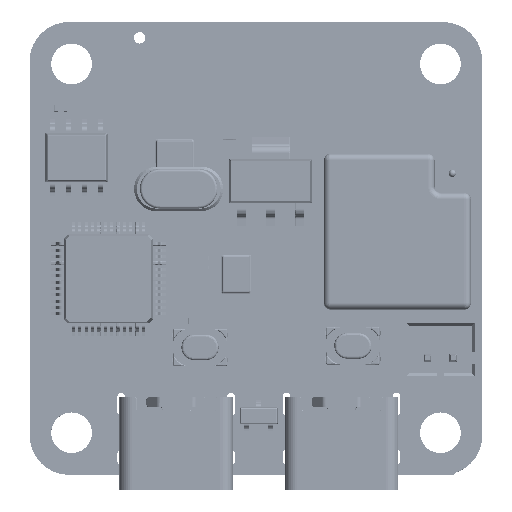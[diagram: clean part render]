
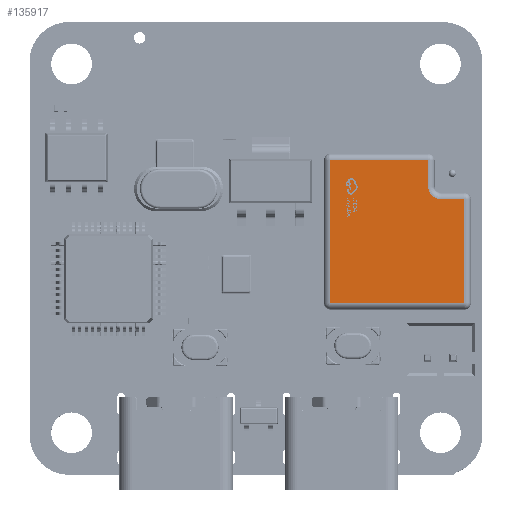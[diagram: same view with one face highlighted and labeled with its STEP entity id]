
A CAD part, top view. The second image highlights one B-rep face of the part: STEP entity #135917.
In plain terms, the highlighted planar face has unit normal (0, 0, 1).
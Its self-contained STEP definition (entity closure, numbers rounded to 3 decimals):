
#135917 = ADVANCED_FACE('',(#135918),#135977,.T.);
#135918 = FACE_BOUND('',#135919,.T.);
#135919 = EDGE_LOOP('',(#135920,#135930,#135938,#135946,#135955,#135963,
    #135971));
#135920 = ORIENTED_EDGE('',*,*,#135921,.T.);
#135921 = EDGE_CURVE('',#135922,#135924,#135926,.T.);
#135922 = VERTEX_POINT('',#135923);
#135923 = CARTESIAN_POINT('',(5.625,-5.275,2.4));
#135924 = VERTEX_POINT('',#135925);
#135925 = CARTESIAN_POINT('',(5.625,5.275,2.4));
#135926 = LINE('',#135927,#135928);
#135927 = CARTESIAN_POINT('',(5.625,5.775,2.4));
#135928 = VECTOR('',#135929,1.);
#135929 = DIRECTION('',(0.,1.,-0.));
#135930 = ORIENTED_EDGE('',*,*,#135931,.T.);
#135931 = EDGE_CURVE('',#135924,#135932,#135934,.T.);
#135932 = VERTEX_POINT('',#135933);
#135933 = CARTESIAN_POINT('',(-2.555,5.275,2.4));
#135934 = LINE('',#135935,#135936);
#135935 = CARTESIAN_POINT('',(-3.055,5.275,2.4));
#135936 = VECTOR('',#135937,1.);
#135937 = DIRECTION('',(-1.,0.,0.));
#135938 = ORIENTED_EDGE('',*,*,#135939,.T.);
#135939 = EDGE_CURVE('',#135932,#135940,#135942,.T.);
#135940 = VERTEX_POINT('',#135941);
#135941 = CARTESIAN_POINT('',(-2.555,3.425,2.4));
#135942 = LINE('',#135943,#135944);
#135943 = CARTESIAN_POINT('',(-2.555,2.925,2.4));
#135944 = VECTOR('',#135945,1.);
#135945 = DIRECTION('',(0.,-1.,0.));
#135946 = ORIENTED_EDGE('',*,*,#135947,.F.);
#135947 = EDGE_CURVE('',#135948,#135940,#135950,.T.);
#135948 = VERTEX_POINT('',#135949);
#135949 = CARTESIAN_POINT('',(-3.555,2.425,2.4));
#135950 = CIRCLE('',#135951,1.);
#135951 = AXIS2_PLACEMENT_3D('',#135952,#135953,#135954);
#135952 = CARTESIAN_POINT('',(-3.555,3.425,2.4));
#135953 = DIRECTION('',(-0.,0.,1.));
#135954 = DIRECTION('',(1.,0.,0.));
#135955 = ORIENTED_EDGE('',*,*,#135956,.T.);
#135956 = EDGE_CURVE('',#135948,#135957,#135959,.T.);
#135957 = VERTEX_POINT('',#135958);
#135958 = CARTESIAN_POINT('',(-5.625,2.425,2.4));
#135959 = LINE('',#135960,#135961);
#135960 = CARTESIAN_POINT('',(-6.125,2.425,2.4));
#135961 = VECTOR('',#135962,1.);
#135962 = DIRECTION('',(-1.,0.,-0.));
#135963 = ORIENTED_EDGE('',*,*,#135964,.T.);
#135964 = EDGE_CURVE('',#135957,#135965,#135967,.T.);
#135965 = VERTEX_POINT('',#135966);
#135966 = CARTESIAN_POINT('',(-5.625,-5.275,2.4));
#135967 = LINE('',#135968,#135969);
#135968 = CARTESIAN_POINT('',(-5.625,-5.775,2.4));
#135969 = VECTOR('',#135970,1.);
#135970 = DIRECTION('',(0.,-1.,0.));
#135971 = ORIENTED_EDGE('',*,*,#135972,.T.);
#135972 = EDGE_CURVE('',#135965,#135922,#135973,.T.);
#135973 = LINE('',#135974,#135975);
#135974 = CARTESIAN_POINT('',(6.125,-5.275,2.4));
#135975 = VECTOR('',#135976,1.);
#135976 = DIRECTION('',(1.,-0.,0.));
#135977 = PLANE('',#135978);
#135978 = AXIS2_PLACEMENT_3D('',#135979,#135980,#135981);
#135979 = CARTESIAN_POINT('',(0.,0.,2.4));
#135980 = DIRECTION('',(-0.,0.,1.));
#135981 = DIRECTION('',(1.,0.,0.));
